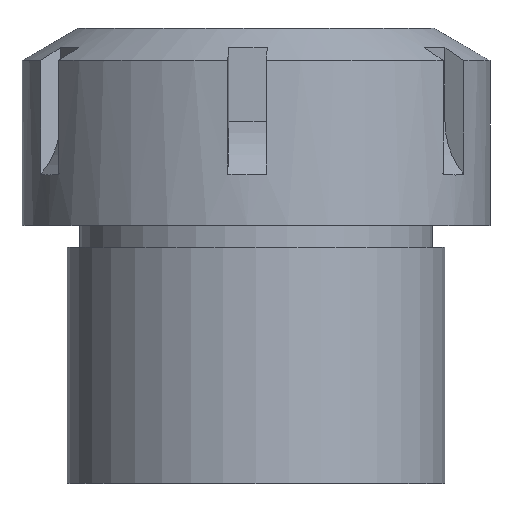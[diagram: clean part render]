
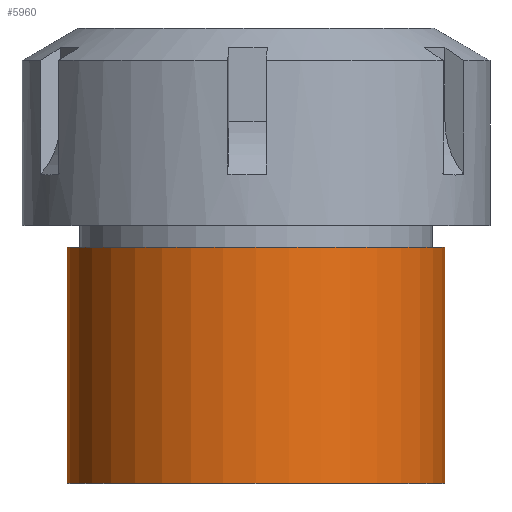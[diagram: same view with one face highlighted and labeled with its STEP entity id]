
A CAD part, top view. The second image highlights one B-rep face of the part: STEP entity #5960.
In plain terms, the highlighted cylindrical face has radius 25.4 mm (diameter 50.8 mm), a full revolution.
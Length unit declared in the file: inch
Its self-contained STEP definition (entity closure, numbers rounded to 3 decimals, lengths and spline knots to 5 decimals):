
#461 = CIRCLE ( 'NONE', #6758, 1. ) ;
#551 = CARTESIAN_POINT ( 'NONE',  ( 0., -0.5, -1. ) ) ;
#563 = DIRECTION ( 'NONE',  ( 0., -1., 0. ) ) ;
#714 = DIRECTION ( 'NONE',  ( 0., 0., -1. ) ) ;
#1052 = EDGE_CURVE ( 'NONE', #5247, #5247, #3915, .T. ) ;
#1072 = ORIENTED_EDGE ( 'NONE', *, *, #5697, .F. ) ;
#1266 = AXIS2_PLACEMENT_3D ( 'NONE', #6031, #4993, #714 ) ;
#2059 = FACE_OUTER_BOUND ( 'NONE', #2108, .T. ) ;
#2108 = EDGE_LOOP ( 'NONE', ( #4240 ) ) ;
#2247 = CARTESIAN_POINT ( 'NONE',  ( 0., -0.5, 0. ) ) ;
#2313 = DIRECTION ( 'NONE',  ( 0., 0., 1. ) ) ;
#2472 = EDGE_LOOP ( 'NONE', ( #1072 ) ) ;
#2523 = CARTESIAN_POINT ( 'NONE',  ( 0., 0.75, 1. ) ) ;
#2731 = FACE_OUTER_BOUND ( 'NONE', #2472, .T. ) ;
#2828 = DIRECTION ( 'NONE',  ( 0., 1., 0. ) ) ;
#3803 = DIRECTION ( 'NONE',  ( 0., 0., -1. ) ) ;
#3915 = CIRCLE ( 'NONE', #4386, 1. ) ;
#4189 = CYLINDRICAL_SURFACE ( 'NONE', #1266, 1. ) ;
#4240 = ORIENTED_EDGE ( 'NONE', *, *, #1052, .F. ) ;
#4386 = AXIS2_PLACEMENT_3D ( 'NONE', #6009, #2828, #2313 ) ;
#4993 = DIRECTION ( 'NONE',  ( 0., -1., 0. ) ) ;
#5247 = VERTEX_POINT ( 'NONE', #2523 ) ;
#5697 = EDGE_CURVE ( 'NONE', #6959, #6959, #461, .T. ) ;
#5960 = ADVANCED_FACE ( 'NONE', ( #2731, #2059 ), #4189, .T. ) ;
#6009 = CARTESIAN_POINT ( 'NONE',  ( 0., 0.75, 0. ) ) ;
#6031 = CARTESIAN_POINT ( 'NONE',  ( 0., 1.5, 0. ) ) ;
#6758 = AXIS2_PLACEMENT_3D ( 'NONE', #2247, #563, #3803 ) ;
#6959 = VERTEX_POINT ( 'NONE', #551 ) ;
